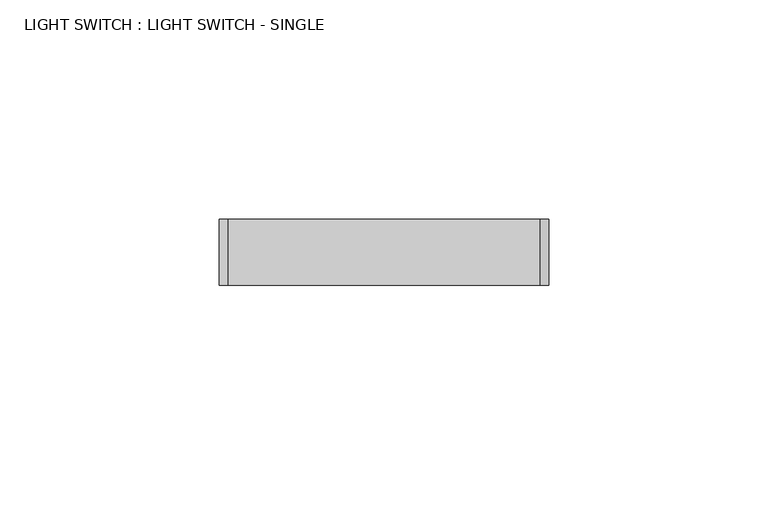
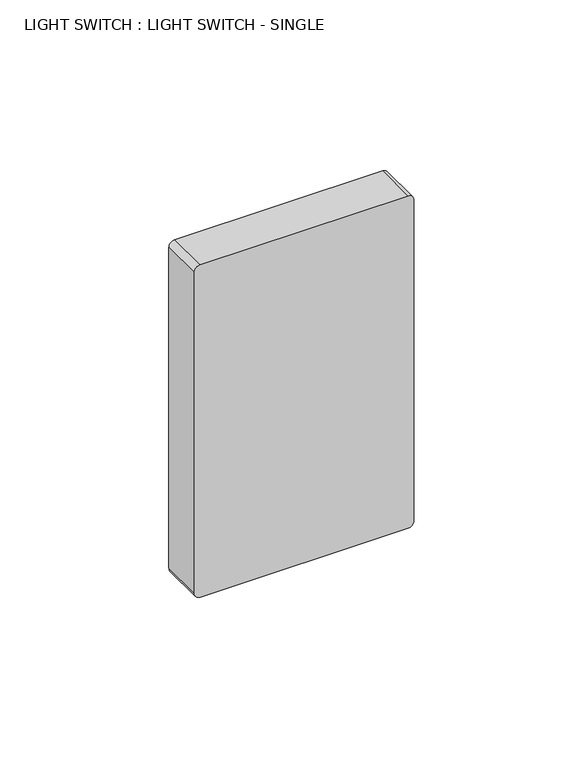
"""IFC4 building model written with IfcOpenShell, lengths in millimetres: proxy geometry, LIGHT SWITCH : LIGHT SWITCH - SINGLE."""

from ifc_helpers import new_model, si_unit, point, frame, frame_2d, origin, place, context, project, spatial, polyline, circle_curve, trimmed, segment, composite_curve, outline, extrude, source, transform, mapped, element, save


def light_switch_light_switch_single_516b3dba(model_context):
    return source(origin(), model_context, "Body", "SweptSolid", [
        extrude(outline(composite_curve([segment(trimmed(circle_curve(frame_2d((58.0, -35.5)), 2.0), [point((60.0, -35.5))], [point((58.0, -37.5))], False, "CARTESIAN"), True, "CONTINUOUS"), segment(polyline([(58.0, -37.5), (-58.0, -37.5)]), True, "CONTINUOUS"), segment(trimmed(circle_curve(frame_2d((-58.0, -35.5)), 2.0), [point((-58.0, -37.5))], [point((-60.0, -35.5))], False, "CARTESIAN"), True, "CONTINUOUS"), segment(polyline([(-60.0, -35.5), (-60.0, 35.5)]), True, "CONTINUOUS"), segment(trimmed(circle_curve(frame_2d((-58.0, 35.5)), 2.0), [point((-60.0, 35.5))], [point((-58.0, 37.5))], False, "CARTESIAN"), True, "CONTINUOUS"), segment(polyline([(-58.0, 37.5), (58.0, 37.5)]), True, "CONTINUOUS"), segment(trimmed(circle_curve(frame_2d((58.0, 35.5)), 2.0), [point((58.0, 37.5))], [point((60.0, 35.5))], False, "CARTESIAN"), True, "CONTINUOUS"), segment(polyline([(60.0, 35.5), (60.0, -35.5)]), True, "CONTINUOUS")], self_intersect=False)), frame((0.0, 0.0, 0.0), z_axis=(0.0, 1.0, 0.0), x_axis=(0.0, 0.0, 1.0)), (0.0, 0.0, 1.0), 15.0),
    ])


if __name__ == "__main__":
    model = new_model("IFC4")
    model_context = context("Model", 3, world=origin())
    ifc_project = project(units=[si_unit("LENGTHUNIT", "METRE", prefix="MILLI")], contexts=[model_context])
    site = spatial("IfcSite", under=ifc_project)
    building = spatial("IfcBuilding", under=site)
    placement = place(None, origin())
    light_switch_light_switch_single_shape = light_switch_light_switch_single_516b3dba(model_context)
    element("IfcBuildingElementProxy", 1, Name="LIGHT SWITCH : LIGHT SWITCH - SINGLE", ObjectType="LIGHT SWITCH : LIGHT SWITCH - SINGLE", at=placement, inside=building, context=model_context, shape_type="MappedRepresentation", body=[
        mapped(light_switch_light_switch_single_shape, transform((0.0, 0.0, 0.0), x_axis=(1.0, 0.0, 0.0), y_axis=(0.0, 1.0, 0.0), z_axis=(0.0, 0.0, 1.0))),
    ])
    save(model, "model.ifc")
